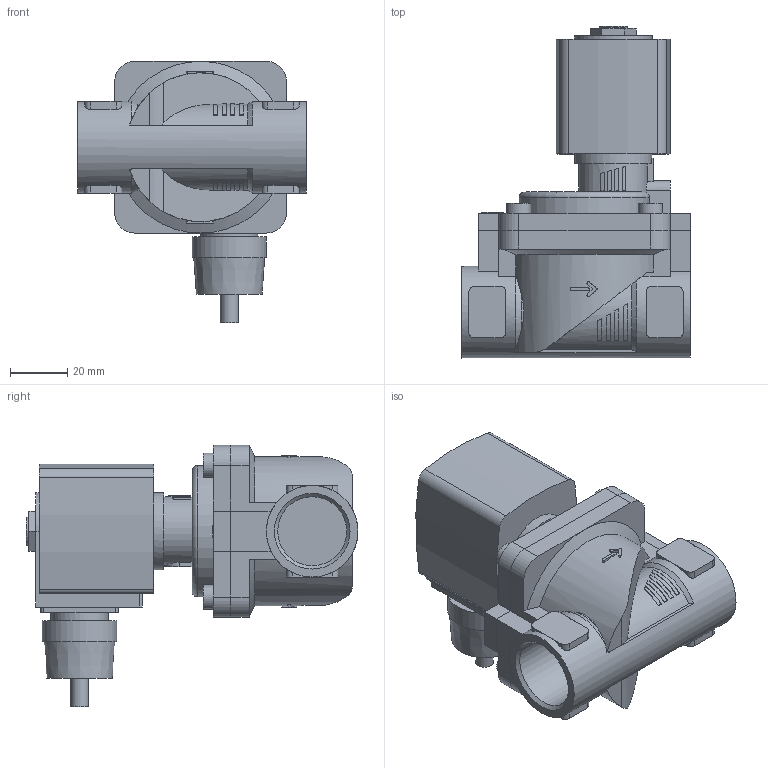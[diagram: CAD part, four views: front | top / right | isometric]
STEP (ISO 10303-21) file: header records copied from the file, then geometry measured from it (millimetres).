
FILE_DESCRIPTION(/* description */ ('STEP AP214'),/* implementation_level */ '2;1');
FILE_NAME(/* name */ '6281-367160-2_2-Way_Solenoid_Valve__Servo-assisted__General_Purpose',/* time_stamp */ '2024-08-20T21:40:23+02:00',/* author */ ('License CC BY-ND 4.0'),/* organization */ ('CADENAS'),/* preprocessor_version */ 'ST-DEVELOPER v19.3',/* originating_system */ 'PARTsolutions',/* authorisation */ ' ');
FILE_SCHEMA (('AUTOMOTIVE_DESIGN {1 0 10303 214 3 1 1}'));
Length unit declared in the file: millimetre
Products named in the file (4): 6281-367160-2/2-Way Solenoid Valve, Servo-assisted, General Purpose; 5281ev200VA2/2-Wege-Magnetventil mit Servomembran-Deckel   ; 6213-20G3/4VA-Gehaeuse-; AC10ex-6ATEXKabelPlan-Coil
Assembly tree (3 placements, depth 2):
  6281-367160-2/2-Way Solenoid Valve, Servo-assisted, General Purpose
    5281ev200VA2/2-Wege-Magnetventil mit Servomembran-Deckel   
    6213-20G3/4VA-Gehaeuse-
    AC10ex-6ATEXKabelPlan-Coil
Bounding box: 80 x 116 x 91.3 mm (x, y, z)
Volume: 231472.8 mm3; surface area: 46222.3 mm2
Topology: 3 solids, 3 shells, 300 faces, 761 edges, 501 vertices
Faces by surface type: plane 190, cylinder 92, cone 17, torus 1
Full cylindrical faces by diameter (mm): 6.2 x1, 8.5 x4, 9.74 x1, 20 x1, 24.117 x2, 26 x1, 27 x1, 32 x1
Entity records: 10009 total; most frequent: CARTESIAN_POINT 1790, DIRECTION 1524, ORIENTED_EDGE 1468, EDGE_CURVE 734, AXIS2_PLACEMENT_3D 556, VERTEX_POINT 492, LINE 412, VECTOR 412
